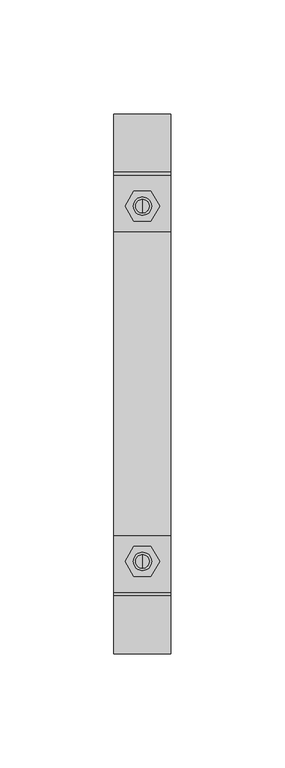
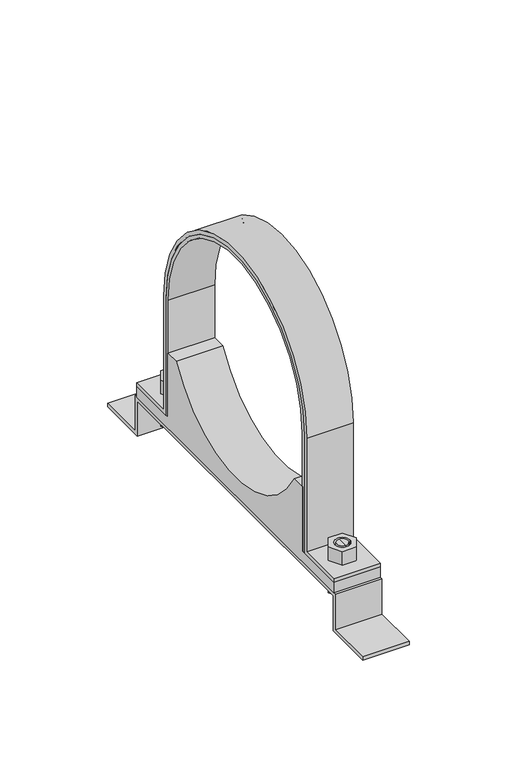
"""IFC4 building model written with IfcOpenShell, lengths in millimetres: valve geometry, Superfix DG3 Clamp : Superfix DG3 Clamp."""

from ifc_helpers import new_model, si_unit, point, frame, frame_2d, origin, place, context, project, spatial, polyline, circle_curve, trimmed, segment, composite_curve, outline, extrude, source, transform, mapped, element, save
from ifc_brep_helpers import plane_surface, cylinder_surface, advanced_brep


def valve_15f5fd39(model_context):
    return source(origin(), model_context, "Body", "SolidModel", [
        advanced_brep(
        [(0.0, 81.0, 7.0), (0.0, 75.0, 7.0), (0.0, 75.0, 20.0), (0.0, 81.0, 20.0), (0.0, 78.0, 7.0)],
        [
            (0, 1, circle_curve(frame((0.0, 78.0, 7.0), z_axis=(0.0, 0.0, 1.0), x_axis=(0.0, 1.0, 0.0)), 3.0)),
            (1, 2),
            (2, 3, circle_curve(frame((0.0, 78.0, 20.0), z_axis=(0.0, 0.0, -1.0), x_axis=(0.0, 1.0, 0.0)), 3.0)),
            (3, 0),
            (1, 0, circle_curve(frame((0.0, 78.0, 7.0), z_axis=(0.0, 0.0, 1.0), x_axis=(0.0, 1.0, 0.0)), 3.0)),
            (3, 2, circle_curve(frame((0.0, 78.0, 20.0), z_axis=(0.0, 0.0, -1.0), x_axis=(0.0, 1.0, 0.0)), 3.0)),
            (0, 4),
            (4, 1),
        ],
        [
            cylinder_surface(frame((0.0, 78.0, 92.7806094), z_axis=(0.0, 0.0, 1.0), x_axis=(0.0, 1.0, 0.0)), 3.0),
            plane_surface(frame((0.0, 78.0, 7.0), z_axis=(0.0, 0.0, -1.0), x_axis=(0.0, 1.0, 0.0))),
            plane_surface(frame((13.75, -91.5, 20.0), z_axis=(0.0, 0.0, 1.0), x_axis=(-1.0, 0.0, 0.0))),
        ],
        [
            (0, [[1, 2, 3, 4]]),
            (0, [[5, -4, 6, -2]]),
            (1, [[-1, 7, 8]]),
            (1, [[-5, -8, -7]]),
            (2, [[-3, -6]]),
        ],
    ),
        advanced_brep(
        [(0.0, 75.0, 38.0), (0.0, 81.0, 38.0), (0.0, 81.0, 28.0), (0.0, 75.0, 28.0), (0.0, 78.0, 38.0)],
        [
            (0, 1, circle_curve(frame((0.0, 78.0, 38.0), z_axis=(0.0, 0.0, -1.0), x_axis=(0.0, 1.0, 0.0)), 3.0)),
            (1, 2),
            (2, 3, circle_curve(frame((0.0, 78.0, 28.0), z_axis=(0.0, 0.0, 1.0), x_axis=(0.0, 1.0, 0.0)), 3.0)),
            (3, 0),
            (1, 0, circle_curve(frame((0.0, 78.0, 38.0), z_axis=(0.0, 0.0, -1.0), x_axis=(0.0, 1.0, 0.0)), 3.0)),
            (3, 2, circle_curve(frame((0.0, 78.0, 28.0), z_axis=(0.0, 0.0, 1.0), x_axis=(0.0, 1.0, 0.0)), 3.0)),
            (0, 4),
            (4, 1),
        ],
        [
            cylinder_surface(frame((0.0, 78.0, 92.7806094), z_axis=(0.0, 0.0, 1.0), x_axis=(0.0, 1.0, 0.0)), 3.0),
            plane_surface(frame((0.0, 78.0, 38.0), z_axis=(0.0, 0.0, 1.0), x_axis=(0.0, 1.0, 0.0))),
            plane_surface(frame((13.75, 91.5, 28.0), z_axis=(0.0, 0.0, -1.0), x_axis=(-1.0, 0.0, 0.0))),
        ],
        [
            (0, [[1, 2, 3, 4]]),
            (0, [[5, -4, 6, -2]]),
            (1, [[-1, 7, 8]]),
            (1, [[-5, -8, -7]]),
            (2, [[-3, -6]]),
        ],
    ),
        advanced_brep(
        [(0.0, -81.0, 38.0), (0.0, -75.0, 38.0), (0.0, -75.0, 28.0), (0.0, -81.0, 28.0), (0.0, -78.0, 38.0)],
        [
            (0, 1, circle_curve(frame((0.0, -78.0, 38.0), z_axis=(0.0, 0.0, -1.0), x_axis=(0.0, -1.0, 0.0)), 3.0)),
            (1, 2),
            (2, 3, circle_curve(frame((0.0, -78.0, 28.0), z_axis=(0.0, 0.0, 1.0), x_axis=(0.0, -1.0, 0.0)), 3.0)),
            (3, 0),
            (1, 0, circle_curve(frame((0.0, -78.0, 38.0), z_axis=(0.0, 0.0, -1.0), x_axis=(0.0, -1.0, 0.0)), 3.0)),
            (3, 2, circle_curve(frame((0.0, -78.0, 28.0), z_axis=(0.0, 0.0, 1.0), x_axis=(0.0, -1.0, 0.0)), 3.0)),
            (0, 4),
            (4, 1),
        ],
        [
            cylinder_surface(frame((0.0, -78.0, 92.7806094), z_axis=(0.0, 0.0, -1.0), x_axis=(0.0, -1.0, 0.0)), 3.0),
            plane_surface(frame((0.0, -78.0, 38.0), z_axis=(0.0, 0.0, 1.0), x_axis=(0.0, -1.0, 0.0))),
            plane_surface(frame((13.75, 91.5, 28.0), z_axis=(0.0, 0.0, -1.0), x_axis=(-1.0, 0.0, 0.0))),
        ],
        [
            (0, [[1, 2, 3, 4]]),
            (0, [[5, -4, 6, -2]]),
            (1, [[-1, 7, 8]]),
            (1, [[-5, -8, -7]]),
            (2, [[-3, -6]]),
        ],
    ),
        advanced_brep(
        [(0.0, -75.0, 7.0), (0.0, -81.0, 7.0), (0.0, -81.0, 20.0), (0.0, -75.0, 20.0), (0.0, -78.0, 7.0)],
        [
            (0, 1, circle_curve(frame((0.0, -78.0, 7.0), z_axis=(0.0, 0.0, 1.0), x_axis=(0.0, -1.0, 0.0)), 3.0)),
            (1, 2),
            (2, 3, circle_curve(frame((0.0, -78.0, 20.0), z_axis=(0.0, 0.0, -1.0), x_axis=(0.0, -1.0, 0.0)), 3.0)),
            (3, 0),
            (1, 0, circle_curve(frame((0.0, -78.0, 7.0), z_axis=(0.0, 0.0, 1.0), x_axis=(0.0, -1.0, 0.0)), 3.0)),
            (3, 2, circle_curve(frame((0.0, -78.0, 20.0), z_axis=(0.0, 0.0, -1.0), x_axis=(0.0, -1.0, 0.0)), 3.0)),
            (0, 4),
            (4, 1),
        ],
        [
            cylinder_surface(frame((0.0, -78.0, 92.7806094), z_axis=(0.0, 0.0, -1.0), x_axis=(0.0, -1.0, 0.0)), 3.0),
            plane_surface(frame((0.0, -78.0, 7.0), z_axis=(0.0, 0.0, -1.0), x_axis=(0.0, -1.0, 0.0))),
            plane_surface(frame((13.75, -91.5, 20.0), z_axis=(0.0, 0.0, 1.0), x_axis=(-1.0, 0.0, 0.0))),
        ],
        [
            (0, [[1, 2, 3, 4]]),
            (0, [[5, -4, 6, -2]]),
            (1, [[-1, 7, 8]]),
            (1, [[-5, -8, -7]]),
            (2, [[-3, -6]]),
        ],
    ),
        extrude(outline(composite_curve([segment(trimmed(circle_curve(frame_2d((0.0, 94.5)), 64.5), [point((64.5, 94.5))], [point((-64.5, 94.5))], True, "CARTESIAN"), True, "CONTINUOUS"), segment(polyline([(-64.5, 94.5), (-64.5, 28.0), (-91.5, 28.0), (-91.5, 30.0), (-66.5, 30.0), (-66.5, 94.5)]), True, "CONTINUOUS"), segment(trimmed(circle_curve(frame_2d((0.0, 94.5)), 66.5), [point((-66.5, 94.5))], [point((66.5, 94.5))], False, "CARTESIAN"), True, "CONTINUOUS"), segment(polyline([(66.5, 94.5), (66.5, 30.0), (91.5, 30.0), (91.5, 28.0), (64.5, 28.0), (64.5, 94.5)]), True, "CONTINUOUS")], self_intersect=False)), frame((-12.5, 0.0, 0.0), z_axis=(1.0, 0.0, 0.0), x_axis=(0.0, 1.0, 0.0)), (0.0, 0.0, 1.0), 25.0),
        extrude(outline(polyline([(7.5055535, -78.0), (3.7527767, -84.5), (-3.7527767, -84.5), (-7.5055535, -78.0), (-3.7527767, -71.5), (3.7527767, -71.5), (7.5055535, -78.0)]), holes=[composite_curve([segment(trimmed(circle_curve(frame_2d((0.0, -78.0)), 4.0), [point((4.0, -78.0))], [point((-4.0, -78.0))], True, "CARTESIAN"), True, "CONTINUOUS"), segment(trimmed(circle_curve(frame_2d((0.0, -78.0)), 4.0), [point((-4.0, -78.0))], [point((4.0, -78.0))], True, "CARTESIAN"), True, "CONTINUOUS")], self_intersect=False)]), frame((0.0, 0.0, 30.0), z_axis=(0.0, 0.0, 1.0), x_axis=(1.0, 0.0, 0.0)), (0.0, 0.0, 1.0), 8.0),
        extrude(outline(polyline([(7.5055535, 78.0), (3.7527767, 71.5), (-3.7527767, 71.5), (-7.5055535, 78.0), (-3.7527767, 84.5), (3.7527767, 84.5), (7.5055535, 78.0)]), holes=[composite_curve([segment(trimmed(circle_curve(frame_2d((0.0, 78.0)), 4.0), [point((4.0, 78.0))], [point((-4.0, 78.0))], True, "CARTESIAN"), True, "CONTINUOUS"), segment(trimmed(circle_curve(frame_2d((0.0, 78.0)), 4.0), [point((-4.0, 78.0))], [point((4.0, 78.0))], True, "CARTESIAN"), True, "CONTINUOUS")], self_intersect=False)]), frame((0.0, 0.0, 30.0), z_axis=(0.0, 0.0, 1.0), x_axis=(1.0, 0.0, 0.0)), (0.0, 0.0, 1.0), 8.0),
        extrude(outline(polyline([(7.5055535, -78.0), (3.7527767, -84.5), (-3.7527767, -84.5), (-7.5055535, -78.0), (-3.7527767, -71.5), (3.7527767, -71.5), (7.5055535, -78.0)]), holes=[composite_curve([segment(trimmed(circle_curve(frame_2d((0.0, -78.0)), 4.0), [point((4.0, -78.0))], [point((-4.0, -78.0))], True, "CARTESIAN"), True, "CONTINUOUS"), segment(trimmed(circle_curve(frame_2d((0.0, -78.0)), 4.0), [point((-4.0, -78.0))], [point((4.0, -78.0))], True, "CARTESIAN"), True, "CONTINUOUS")], self_intersect=False)]), frame((0.0, 0.0, 12.0), z_axis=(0.0, 0.0, 1.0), x_axis=(1.0, 0.0, 0.0)), (0.0, 0.0, 1.0), 8.0),
        extrude(outline(polyline([(7.5055535, 78.0), (3.7527767, 71.5), (-3.7527767, 71.5), (-7.5055535, 78.0), (-3.7527767, 84.5), (3.7527767, 84.5), (7.5055535, 78.0)]), holes=[composite_curve([segment(trimmed(circle_curve(frame_2d((0.0, 78.0)), 4.0), [point((4.0, 78.0))], [point((-4.0, 78.0))], True, "CARTESIAN"), True, "CONTINUOUS"), segment(trimmed(circle_curve(frame_2d((0.0, 78.0)), 4.0), [point((-4.0, 78.0))], [point((4.0, 78.0))], True, "CARTESIAN"), True, "CONTINUOUS")], self_intersect=False)]), frame((0.0, 0.0, 12.0), z_axis=(0.0, 0.0, 1.0), x_axis=(1.0, 0.0, 0.0)), (0.0, 0.0, 1.0), 8.0),
        extrude(outline(composite_curve([segment(polyline([(-91.5, 22.0), (-91.5, 28.0), (-62.5, 28.0), (-62.5, 64.5), (-54.8292805, 64.5)]), True, "CONTINUOUS"), segment(trimmed(circle_curve(frame_2d((0.0, 94.5)), 62.5), [point((-54.8292805, 64.5))], [point((54.8292805, 64.5))], True, "CARTESIAN"), True, "CONTINUOUS"), segment(polyline([(54.8292805, 64.5), (62.5, 64.5), (62.5, 28.0), (91.5, 28.0), (91.5, 22.0), (-91.5, 22.0)]), True, "CONTINUOUS")], self_intersect=False)), frame((-12.5, 0.0, 0.0), z_axis=(1.0, 0.0, 0.0), x_axis=(0.0, 1.0, 0.0)), (0.0, 0.0, 1.0), 25.0),
        extrude(outline(polyline([(-118.5, 2.0), (-93.0, 2.0), (-93.0, 22.0), (0.0, 22.0), (93.0, 22.0), (93.0, 2.0), (118.5, 2.0), (118.5, 0.0), (91.0, 0.0), (91.0, 20.0), (0.0, 20.0), (-91.0, 20.0), (-91.0, 0.0), (-118.5, 0.0), (-118.5, 2.0)])), frame((-12.5, 0.0, 0.0), z_axis=(1.0, 0.0, 0.0), x_axis=(0.0, 1.0, 0.0)), (0.0, 0.0, 1.0), 25.0),
        extrude(outline(composite_curve([segment(trimmed(circle_curve(frame_2d((0.0, 94.5)), 62.5), [point((62.5, 94.5))], [point((-62.5, 94.5))], True, "CARTESIAN"), True, "CONTINUOUS"), segment(polyline([(-62.5, 94.5), (-62.5, 28.0), (-64.5, 28.0), (-64.5, 94.5)]), True, "CONTINUOUS"), segment(trimmed(circle_curve(frame_2d((0.0, 94.5)), 64.5), [point((-64.5, 94.5))], [point((64.5, 94.5))], False, "CARTESIAN"), True, "CONTINUOUS"), segment(polyline([(64.5, 94.5), (64.5, 28.0), (62.5, 28.0), (62.5, 94.5)]), True, "CONTINUOUS")], self_intersect=False)), frame((-12.5, 0.0, 0.0), z_axis=(1.0, 0.0, 0.0), x_axis=(0.0, 1.0, 0.0)), (0.0, 0.0, 1.0), 25.0),
    ])


if __name__ == "__main__":
    model = new_model("IFC4")
    model_context = context("Model", 3, world=origin())
    ifc_project = project(units=[si_unit("LENGTHUNIT", "METRE", prefix="MILLI")], contexts=[model_context])
    site = spatial("IfcSite", under=ifc_project)
    building = spatial("IfcBuilding", under=site)
    placement = place(None, origin())
    valve_shape = valve_15f5fd39(model_context)
    element("IfcValve", 1, ObjectType="Superfix DG3 Clamp : Superfix DG3 Clamp", at=placement, inside=building, context=model_context, shape_type="MappedRepresentation", body=[
        mapped(valve_shape, transform((0.0, 0.0, 0.0), x_axis=(1.0, 0.0, 0.0), y_axis=(0.0, 1.0, 0.0), z_axis=(0.0, 0.0, 1.0))),
    ])
    save(model, "model.ifc")
